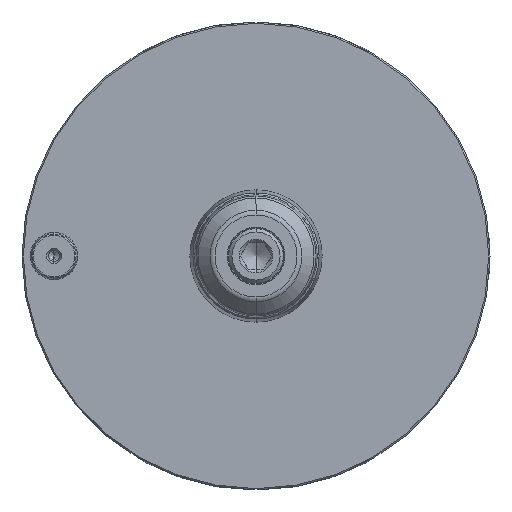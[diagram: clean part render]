
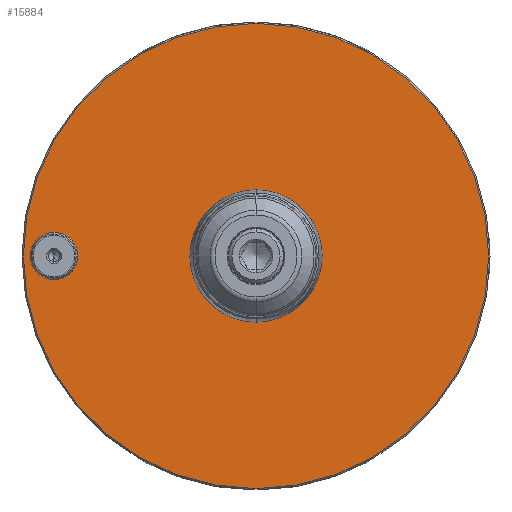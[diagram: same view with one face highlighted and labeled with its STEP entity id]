
A CAD part, left-side view. The second image highlights one B-rep face of the part: STEP entity #15884.
In plain terms, the highlighted planar face has unit normal (-1, 0, 0).
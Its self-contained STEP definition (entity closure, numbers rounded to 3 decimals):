
#50 = AXIS2_PLACEMENT_3D ( 'NONE', #6403, #20983, #19214 ) ;
#212 = EDGE_CURVE ( 'NONE', #18046, #22200, #771, .T. ) ;
#265 = EDGE_LOOP ( 'NONE', ( #8730, #15853 ) ) ;
#341 = CARTESIAN_POINT ( 'NONE',  ( 0., 0., 68.998 ) ) ;
#560 = VERTEX_POINT ( 'NONE', #13074 ) ;
#595 = DIRECTION ( 'NONE',  ( 0., 0.707, -0.707 ) ) ;
#624 = VECTOR ( 'NONE', #5772, 1000. ) ;
#659 = CIRCLE ( 'NONE', #10141, 69.1 ) ;
#771 = CIRCLE ( 'NONE', #18932, 69.1 ) ;
#1040 = LINE ( 'NONE', #20489, #5330 ) ;
#1096 = ORIENTED_EDGE ( 'NONE', *, *, #9497, .T. ) ;
#1110 = CARTESIAN_POINT ( 'NONE',  ( 0., 12.9, 0. ) ) ;
#1294 = ORIENTED_EDGE ( 'NONE', *, *, #1706, .T. ) ;
#1683 = EDGE_CURVE ( 'NONE', #560, #19706, #22464, .T. ) ;
#1706 = EDGE_CURVE ( 'NONE', #19706, #18046, #1040, .T. ) ;
#1826 = CIRCLE ( 'NONE', #14677, 12.9 ) ;
#2896 = FACE_BOUND ( 'NONE', #4081, .T. ) ;
#3200 = DIRECTION ( 'NONE',  ( -1., 0., 0. ) ) ;
#4081 = EDGE_LOOP ( 'NONE', ( #14319, #20718 ) ) ;
#4170 = CARTESIAN_POINT ( 'NONE',  ( 0., 0., 12.9 ) ) ;
#4177 = DIRECTION ( 'NONE',  ( 0., 0., 1. ) ) ;
#5022 = CIRCLE ( 'NONE', #5778, 6.4 ) ;
#5330 = VECTOR ( 'NONE', #18942, 1000. ) ;
#5506 = VERTEX_POINT ( 'NONE', #8869 ) ;
#5772 = DIRECTION ( 'NONE',  ( 0., 0.707, 0.707 ) ) ;
#5778 = AXIS2_PLACEMENT_3D ( 'NONE', #9777, #9545, #4177 ) ;
#5933 = ORIENTED_EDGE ( 'NONE', *, *, #15291, .T. ) ;
#6039 = CARTESIAN_POINT ( 'NONE',  ( 0., 60., -6.4 ) ) ;
#6403 = CARTESIAN_POINT ( 'NONE',  ( 0., 0., 0. ) ) ;
#6664 = DIRECTION ( 'NONE',  ( -1., 0., 0. ) ) ;
#6929 = EDGE_CURVE ( 'NONE', #23156, #20257, #13131, .T. ) ;
#8062 = CARTESIAN_POINT ( 'NONE',  ( 0., -0.102, -69.1 ) ) ;
#8248 = EDGE_LOOP ( 'NONE', ( #1294, #12533, #5933, #1096, #16430, #12760 ) ) ;
#8318 = DIRECTION ( 'NONE',  ( 0., 0., 1. ) ) ;
#8727 = AXIS2_PLACEMENT_3D ( 'NONE', #1110, #12045, #17449 ) ;
#8730 = ORIENTED_EDGE ( 'NONE', *, *, #19487, .F. ) ;
#8869 = CARTESIAN_POINT ( 'NONE',  ( 0., 0., 68.998 ) ) ;
#9497 = EDGE_CURVE ( 'NONE', #5506, #11070, #16923, .T. ) ;
#9545 = DIRECTION ( 'NONE',  ( -1., 0., 0. ) ) ;
#9777 = CARTESIAN_POINT ( 'NONE',  ( 0., 60., 0. ) ) ;
#10022 = PLANE ( 'NONE',  #8727 ) ;
#10141 = AXIS2_PLACEMENT_3D ( 'NONE', #10359, #6664, #17549 ) ;
#10258 = FACE_OUTER_BOUND ( 'NONE', #8248, .T. ) ;
#10284 = DIRECTION ( 'NONE',  ( -1., 0., 0. ) ) ;
#10359 = CARTESIAN_POINT ( 'NONE',  ( 0., 0., 0. ) ) ;
#10571 = EDGE_CURVE ( 'NONE', #11070, #560, #659, .T. ) ;
#10698 = CARTESIAN_POINT ( 'NONE',  ( 0., 60., 6.4 ) ) ;
#11034 = VECTOR ( 'NONE', #17035, 1000. ) ;
#11070 = VERTEX_POINT ( 'NONE', #14216 ) ;
#11663 = EDGE_CURVE ( 'NONE', #21234, #23282, #1826, .T. ) ;
#11746 = CARTESIAN_POINT ( 'NONE',  ( 0., 0., -68.998 ) ) ;
#11806 = CIRCLE ( 'NONE', #50, 12.9 ) ;
#12045 = DIRECTION ( 'NONE',  ( 1., 0., 0. ) ) ;
#12533 = ORIENTED_EDGE ( 'NONE', *, *, #212, .T. ) ;
#12735 = AXIS2_PLACEMENT_3D ( 'NONE', #23081, #17746, #8318 ) ;
#12760 = ORIENTED_EDGE ( 'NONE', *, *, #1683, .T. ) ;
#13074 = CARTESIAN_POINT ( 'NONE',  ( 0., 0.102, -69.1 ) ) ;
#13131 = CIRCLE ( 'NONE', #12735, 6.4 ) ;
#13328 = CARTESIAN_POINT ( 'NONE',  ( 0., -0.102, 69.1 ) ) ;
#13624 = VECTOR ( 'NONE', #595, 1000. ) ;
#14216 = CARTESIAN_POINT ( 'NONE',  ( 0., 0.102, 69.1 ) ) ;
#14319 = ORIENTED_EDGE ( 'NONE', *, *, #6929, .F. ) ;
#14677 = AXIS2_PLACEMENT_3D ( 'NONE', #22956, #3200, #21423 ) ;
#15291 = EDGE_CURVE ( 'NONE', #22200, #5506, #16352, .T. ) ;
#15853 = ORIENTED_EDGE ( 'NONE', *, *, #11663, .F. ) ;
#15884 = ADVANCED_FACE ( 'NONE', ( #2896, #23009, #10258 ), #10022, .F. ) ;
#16352 = LINE ( 'NONE', #20031, #13624 ) ;
#16430 = ORIENTED_EDGE ( 'NONE', *, *, #10571, .T. ) ;
#16923 = LINE ( 'NONE', #341, #624 ) ;
#17035 = DIRECTION ( 'NONE',  ( 0., -0.707, 0.707 ) ) ;
#17246 = CARTESIAN_POINT ( 'NONE',  ( 0., 0., 0. ) ) ;
#17449 = DIRECTION ( 'NONE',  ( 0., 0., -1. ) ) ;
#17549 = DIRECTION ( 'NONE',  ( 0., 0., 1. ) ) ;
#17746 = DIRECTION ( 'NONE',  ( -1., 0., 0. ) ) ;
#18046 = VERTEX_POINT ( 'NONE', #8062 ) ;
#18932 = AXIS2_PLACEMENT_3D ( 'NONE', #17246, #10284, #19615 ) ;
#18942 = DIRECTION ( 'NONE',  ( 0., -0.707, -0.707 ) ) ;
#19214 = DIRECTION ( 'NONE',  ( 0., 0., 1. ) ) ;
#19334 = CARTESIAN_POINT ( 'NONE',  ( 0., 0., -12.9 ) ) ;
#19487 = EDGE_CURVE ( 'NONE', #23282, #21234, #11806, .T. ) ;
#19615 = DIRECTION ( 'NONE',  ( 0., 0., 1. ) ) ;
#19706 = VERTEX_POINT ( 'NONE', #22245 ) ;
#20031 = CARTESIAN_POINT ( 'NONE',  ( 0., -4.977, 73.975 ) ) ;
#20257 = VERTEX_POINT ( 'NONE', #6039 ) ;
#20489 = CARTESIAN_POINT ( 'NONE',  ( 0., -4.977, -73.975 ) ) ;
#20718 = ORIENTED_EDGE ( 'NONE', *, *, #22180, .F. ) ;
#20983 = DIRECTION ( 'NONE',  ( -1., 0., 0. ) ) ;
#21234 = VERTEX_POINT ( 'NONE', #19334 ) ;
#21423 = DIRECTION ( 'NONE',  ( 0., 0., 1. ) ) ;
#22180 = EDGE_CURVE ( 'NONE', #20257, #23156, #5022, .T. ) ;
#22200 = VERTEX_POINT ( 'NONE', #13328 ) ;
#22245 = CARTESIAN_POINT ( 'NONE',  ( 0., 0., -68.998 ) ) ;
#22464 = LINE ( 'NONE', #11746, #11034 ) ;
#22956 = CARTESIAN_POINT ( 'NONE',  ( 0., 0., 0. ) ) ;
#23009 = FACE_BOUND ( 'NONE', #265, .T. ) ;
#23081 = CARTESIAN_POINT ( 'NONE',  ( 0., 60., 0. ) ) ;
#23156 = VERTEX_POINT ( 'NONE', #10698 ) ;
#23282 = VERTEX_POINT ( 'NONE', #4170 ) ;
